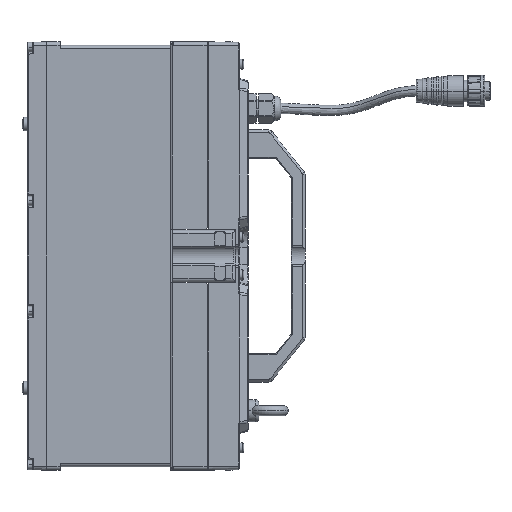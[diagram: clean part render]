
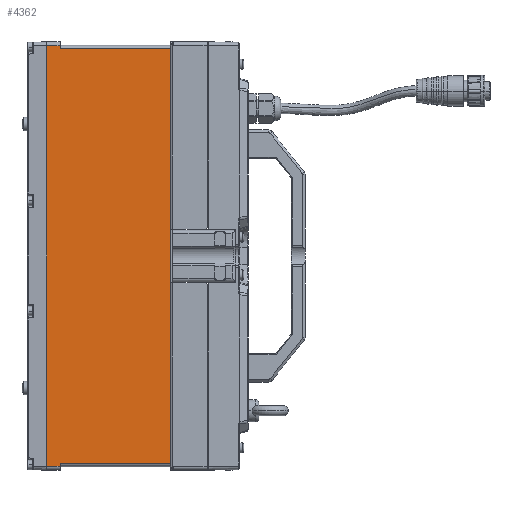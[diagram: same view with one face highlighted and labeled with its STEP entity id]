
A CAD part, left-side view. The second image highlights one B-rep face of the part: STEP entity #4362.
In plain terms, the highlighted planar face has unit normal (-1, 0, 0).
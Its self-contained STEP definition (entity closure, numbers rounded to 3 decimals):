
#739=DIRECTION('',(0.,-1.,0.));
#740=VECTOR('',#739,7.8);
#741=CARTESIAN_POINT('',(-24.5,-2.2,222.322));
#742=LINE('',#741,#740);
#743=DIRECTION('',(0.,0.,-1.));
#744=VECTOR('',#743,1.822);
#745=CARTESIAN_POINT('',(-24.5,-10.,222.322));
#746=LINE('',#745,#744);
#747=DIRECTION('',(0.,1.,0.));
#748=VECTOR('',#747,64.);
#749=CARTESIAN_POINT('',(-24.5,-74.,220.5));
#750=LINE('',#749,#748);
#751=DIRECTION('',(0.,-1.,0.));
#752=VECTOR('',#751,64.);
#753=CARTESIAN_POINT('',(-24.5,-10.,-20.5));
#754=LINE('',#753,#752);
#755=DIRECTION('',(0.,0.,-1.));
#756=VECTOR('',#755,1.822);
#757=CARTESIAN_POINT('',(-24.5,-10.,-20.5));
#758=LINE('',#757,#756);
#759=DIRECTION('',(0.,-1.,0.));
#760=VECTOR('',#759,7.8);
#761=CARTESIAN_POINT('',(-24.5,-2.2,-22.322));
#762=LINE('',#761,#760);
#763=DIRECTION('',(0.,0.,1.));
#764=VECTOR('',#763,244.644);
#765=CARTESIAN_POINT('',(-24.5,-2.2,-22.322));
#766=LINE('',#765,#764);
#942=DIRECTION('',(0.,0.,1.));
#943=VECTOR('',#942,241.);
#944=CARTESIAN_POINT('',(-24.5,-74.,-20.5));
#945=LINE('',#944,#943);
#2556=CARTESIAN_POINT('',(-24.5,-10.,-20.5));
#2557=VERTEX_POINT('',#2556);
#2600=CARTESIAN_POINT('',(-24.5,-10.,220.5));
#2601=VERTEX_POINT('',#2600);
#2651=CARTESIAN_POINT('',(-24.5,-2.2,-22.322));
#2653=VERTEX_POINT('',#2651);
#2654=CARTESIAN_POINT('',(-24.5,-10.,-22.322));
#2655=VERTEX_POINT('',#2654);
#2658=CARTESIAN_POINT('',(-24.5,-2.2,222.322));
#2660=VERTEX_POINT('',#2658);
#2664=CARTESIAN_POINT('',(-24.5,-10.,222.322));
#2665=VERTEX_POINT('',#2664);
#2670=CARTESIAN_POINT('',(-24.5,-74.,-20.5));
#2672=VERTEX_POINT('',#2670);
#2676=CARTESIAN_POINT('',(-24.5,-74.,220.5));
#2677=VERTEX_POINT('',#2676);
#4341=CARTESIAN_POINT('',(-24.5,0.,-25.));
#4342=DIRECTION('',(-1.,0.,0.));
#4343=DIRECTION('',(0.,0.,1.));
#4344=AXIS2_PLACEMENT_3D('',#4341,#4342,#4343);
#4345=PLANE('',#4344);
#4347=ORIENTED_EDGE('',*,*,#4346,.T.);
#4349=ORIENTED_EDGE('',*,*,#4348,.T.);
#4351=ORIENTED_EDGE('',*,*,#4350,.F.);
#4353=ORIENTED_EDGE('',*,*,#4352,.F.);
#4355=ORIENTED_EDGE('',*,*,#4354,.F.);
#4356=ORIENTED_EDGE('',*,*,#4263,.T.);
#4357=ORIENTED_EDGE('',*,*,#4327,.F.);
#4359=ORIENTED_EDGE('',*,*,#4358,.T.);
#4360=EDGE_LOOP('',(#4347,#4349,#4351,#4353,#4355,#4356,#4357,#4359));
#4361=FACE_OUTER_BOUND('',#4360,.F.);
#4263=EDGE_CURVE('',#2557,#2655,#758,.T.);
#4327=EDGE_CURVE('',#2653,#2655,#762,.T.);
#4346=EDGE_CURVE('',#2660,#2665,#742,.T.);
#4348=EDGE_CURVE('',#2665,#2601,#746,.T.);
#4350=EDGE_CURVE('',#2677,#2601,#750,.T.);
#4352=EDGE_CURVE('',#2672,#2677,#945,.T.);
#4354=EDGE_CURVE('',#2557,#2672,#754,.T.);
#4358=EDGE_CURVE('',#2653,#2660,#766,.T.);
#4362=ADVANCED_FACE('',(#4361),#4345,.T.);
